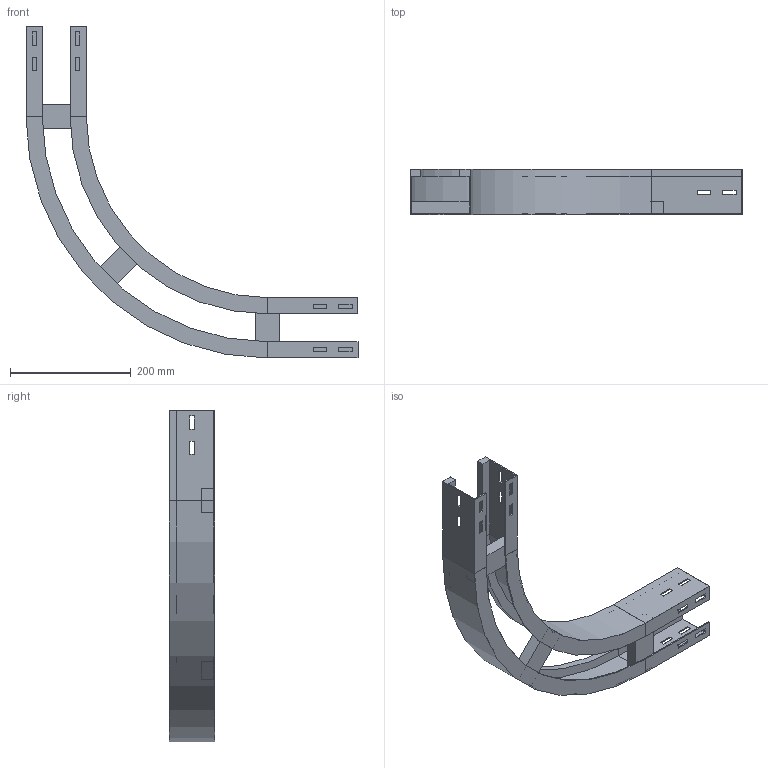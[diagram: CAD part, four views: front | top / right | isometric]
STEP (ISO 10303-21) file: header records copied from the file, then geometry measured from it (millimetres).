
FILE_DESCRIPTION (( 'STEP AP214' ), '1' );
FILE_NAME ('A2_10B3C100.step', '2025-02-21T15:26:11', ( '' ), ( '' ), 'SwSTEP 2.0', 'SolidWorks 2023', '' );
FILE_SCHEMA (( 'AUTOMOTIVE_DESIGN' ));
Length unit declared in the file: millimetre
Products named in the file (4): A2_10B3C100; A2_LONGH.ESTERNO 90°_H75_R300+100; TRAVERSINO_100; A2_LONGH.INTERNO 90°_H75_R300
Assembly tree (5 placements, depth 2):
  A2_10B3C100
    A2_LONGH.INTERNO 90°_H75_R300
    A2_LONGH.ESTERNO 90°_H75_R300+100
    TRAVERSINO_100  x3
Bounding box: 550 x 75 x 550 mm (x, y, z)
Volume: 894578.5 mm3; surface area: 439299.6 mm2
Topology: 5 solids, 5 shells, 134 faces, 340 edges, 216 vertices
Faces by surface type: plane 126, cylinder 8
Entity records: 3821 total; most frequent: CARTESIAN_POINT 646, ORIENTED_EDGE 632, DIRECTION 592, EDGE_CURVE 316, VECTOR 300, LINE 300, VERTEX_POINT 200, EDGE_LOOP 154
